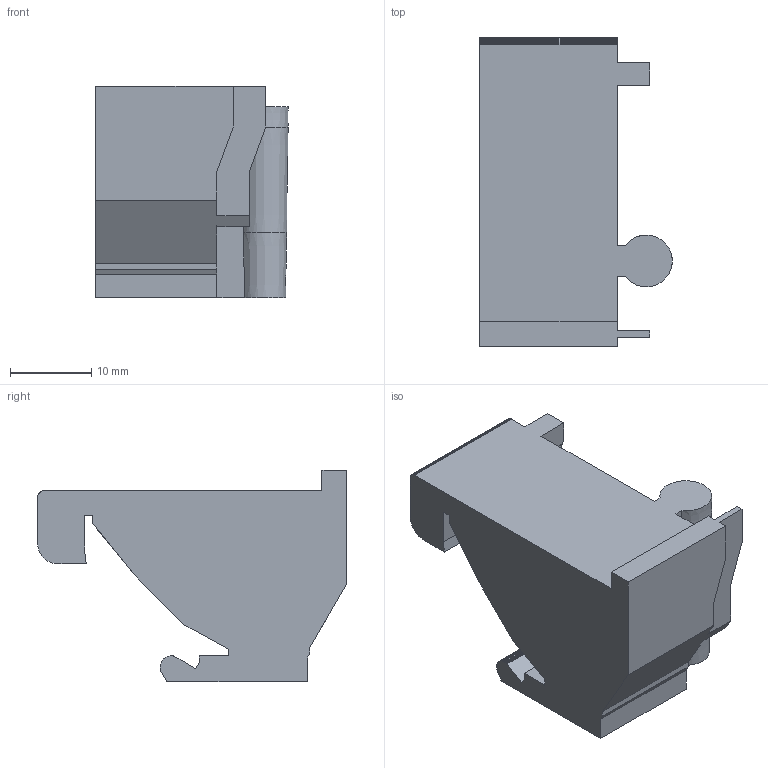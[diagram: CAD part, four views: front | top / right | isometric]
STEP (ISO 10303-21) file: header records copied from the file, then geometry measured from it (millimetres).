
FILE_DESCRIPTION(('Open CASCADE Model'),'2;1');
FILE_NAME('Open CASCADE Shape Model','2026-10-24T07:19:12',('Author'),( 'Open CASCADE'),'Open CASCADE STEP processor 8.0','build123d', 'Unknown');
FILE_SCHEMA(('AUTOMOTIVE_DESIGN { 1 0 10303 214 1 1 1 1 }'));
Length unit declared in the file: millimetre
Products named in the file (1): SOLID
Bounding box: 23.68 x 38 x 26 mm (x, y, z)
Volume: 10482.1 mm3; surface area: 4179.7 mm2
Topology: 1 solids, 1 shells, 103 faces, 303 edges, 202 vertices
Faces by surface type: plane 98, cone 3, bspline 2
Entity records: 6932 total; most frequent: CARTESIAN_POINT 1925, ORIENTED_EDGE 606, PCURVE 606, DEFINITIONAL_REPRESENTATION 606, DIRECTION 576, B_SPLINE_CURVE_WITH_KNOTS 541, LINE 362, VECTOR 362
